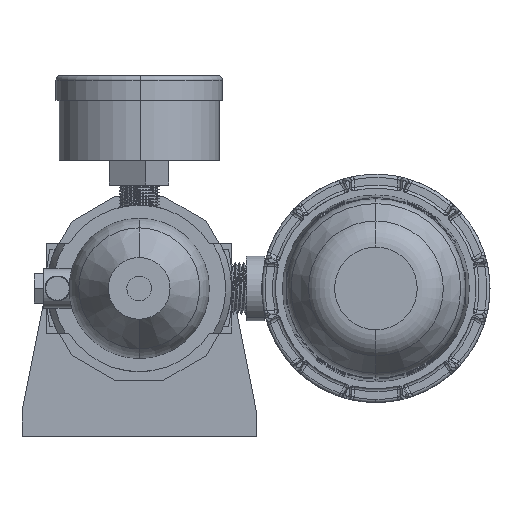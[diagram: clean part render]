
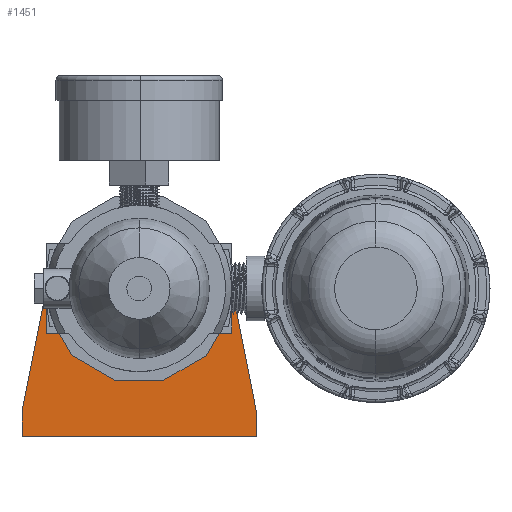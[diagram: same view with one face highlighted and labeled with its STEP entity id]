
A CAD part, front view. The second image highlights one B-rep face of the part: STEP entity #1451.
In plain terms, the highlighted planar face has unit normal (0, -1, 0).
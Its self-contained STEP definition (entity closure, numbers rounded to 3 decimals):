
#1088 = VECTOR ( 'NONE', #30053, 1000. ) ;
#1421 = CARTESIAN_POINT ( 'NONE',  ( 0., 0., 0. ) ) ;
#1451 = ADVANCED_FACE ( 'NONE', ( #35218, #46492 ), #53037, .F. ) ;
#2181 = AXIS2_PLACEMENT_3D ( 'NONE', #41358, #37414, #37584 ) ;
#2233 = CARTESIAN_POINT ( 'NONE',  ( 0., 0., -24. ) ) ;
#2901 = CARTESIAN_POINT ( 'NONE',  ( -38., 0., -48. ) ) ;
#3458 = DIRECTION ( 'NONE',  ( 0.194, 0., 0.981 ) ) ;
#3525 = DIRECTION ( 'NONE',  ( 0., 0., -1. ) ) ;
#3844 = ORIENTED_EDGE ( 'NONE', *, *, #44662, .F. ) ;
#5910 = DIRECTION ( 'NONE',  ( 0., 0., 1. ) ) ;
#7350 = ORIENTED_EDGE ( 'NONE', *, *, #24562, .T. ) ;
#7793 = VERTEX_POINT ( 'NONE', #2233 ) ;
#8515 = VERTEX_POINT ( 'NONE', #16818 ) ;
#8529 = CARTESIAN_POINT ( 'NONE',  ( -38., 0., -48. ) ) ;
#9286 = ORIENTED_EDGE ( 'NONE', *, *, #42701, .F. ) ;
#11626 = CARTESIAN_POINT ( 'NONE',  ( 28.937, 0., 5.734 ) ) ;
#11745 = VERTEX_POINT ( 'NONE', #14418 ) ;
#13649 = DIRECTION ( 'NONE',  ( -1., 0., 0. ) ) ;
#14418 = CARTESIAN_POINT ( 'NONE',  ( -38., 0., -40. ) ) ;
#15026 = DIRECTION ( 'NONE',  ( 0., 1., 0. ) ) ;
#15041 = LINE ( 'NONE', #2901, #36272 ) ;
#15141 = VERTEX_POINT ( 'NONE', #29105 ) ;
#15280 = EDGE_LOOP ( 'NONE', ( #7350, #23127 ) ) ;
#16818 = CARTESIAN_POINT ( 'NONE',  ( 38., 0., -48. ) ) ;
#18871 = ORIENTED_EDGE ( 'NONE', *, *, #43096, .F. ) ;
#19960 = EDGE_CURVE ( 'NONE', #8515, #29917, #29110, .T. ) ;
#20020 = CARTESIAN_POINT ( 'NONE',  ( -38., 0., -40. ) ) ;
#21343 = ORIENTED_EDGE ( 'NONE', *, *, #50241, .F. ) ;
#21901 = CARTESIAN_POINT ( 'NONE',  ( 38., 0., -40. ) ) ;
#23127 = ORIENTED_EDGE ( 'NONE', *, *, #36999, .T. ) ;
#23708 = LINE ( 'NONE', #21901, #1088 ) ;
#24107 = VECTOR ( 'NONE', #3458, 1000. ) ;
#24562 = EDGE_CURVE ( 'NONE', #48284, #7793, #51582, .T. ) ;
#26450 = CARTESIAN_POINT ( 'NONE',  ( -38., 0., -48. ) ) ;
#27447 = DIRECTION ( 'NONE',  ( 0., 1., 0. ) ) ;
#28886 = CARTESIAN_POINT ( 'NONE',  ( 38., 0., -40. ) ) ;
#29105 = CARTESIAN_POINT ( 'NONE',  ( -28.937, 0., 5.734 ) ) ;
#29110 = LINE ( 'NONE', #26450, #29809 ) ;
#29809 = VECTOR ( 'NONE', #13649, 1000. ) ;
#29917 = VERTEX_POINT ( 'NONE', #8529 ) ;
#30053 = DIRECTION ( 'NONE',  ( 0.194, 0., -0.981 ) ) ;
#31133 = DIRECTION ( 'NONE',  ( 0., 1., 0. ) ) ;
#31645 = EDGE_CURVE ( 'NONE', #44673, #8515, #36480, .T. ) ;
#32913 = CARTESIAN_POINT ( 'NONE',  ( 0., 0., 24. ) ) ;
#34654 = CIRCLE ( 'NONE', #40623, 24. ) ;
#35218 = FACE_BOUND ( 'NONE', #15280, .T. ) ;
#36272 = VECTOR ( 'NONE', #49315, 1000. ) ;
#36480 = LINE ( 'NONE', #54401, #53761 ) ;
#36518 = CARTESIAN_POINT ( 'NONE',  ( 0., 0., 0. ) ) ;
#36999 = EDGE_CURVE ( 'NONE', #7793, #48284, #34654, .T. ) ;
#37414 = DIRECTION ( 'NONE',  ( 0., 1., 0. ) ) ;
#37584 = DIRECTION ( 'NONE',  ( 0., 0., 1. ) ) ;
#38244 = VERTEX_POINT ( 'NONE', #11626 ) ;
#39723 = AXIS2_PLACEMENT_3D ( 'NONE', #43754, #31133, #52134 ) ;
#40623 = AXIS2_PLACEMENT_3D ( 'NONE', #36518, #15026, #53422 ) ;
#41358 = CARTESIAN_POINT ( 'NONE',  ( 0., 0., 0. ) ) ;
#42701 = EDGE_CURVE ( 'NONE', #38244, #44673, #23708, .T. ) ;
#43096 = EDGE_CURVE ( 'NONE', #29917, #11745, #15041, .T. ) ;
#43106 = ORIENTED_EDGE ( 'NONE', *, *, #31645, .F. ) ;
#43754 = CARTESIAN_POINT ( 'NONE',  ( 0., 0., 0. ) ) ;
#44662 = EDGE_CURVE ( 'NONE', #11745, #15141, #48024, .T. ) ;
#44673 = VERTEX_POINT ( 'NONE', #28886 ) ;
#46492 = FACE_OUTER_BOUND ( 'NONE', #50745, .T. ) ;
#48024 = LINE ( 'NONE', #20020, #24107 ) ;
#48284 = VERTEX_POINT ( 'NONE', #32913 ) ;
#48585 = ORIENTED_EDGE ( 'NONE', *, *, #19960, .F. ) ;
#49315 = DIRECTION ( 'NONE',  ( 0., 0., 1. ) ) ;
#50241 = EDGE_CURVE ( 'NONE', #15141, #38244, #54623, .T. ) ;
#50745 = EDGE_LOOP ( 'NONE', ( #3844, #18871, #48585, #43106, #9286, #21343 ) ) ;
#51582 = CIRCLE ( 'NONE', #39723, 24. ) ;
#52134 = DIRECTION ( 'NONE',  ( 0., 0., 1. ) ) ;
#53037 = PLANE ( 'NONE',  #2181 ) ;
#53422 = DIRECTION ( 'NONE',  ( 0., 0., 1. ) ) ;
#53761 = VECTOR ( 'NONE', #3525, 1000. ) ;
#54401 = CARTESIAN_POINT ( 'NONE',  ( 38., 0., -48. ) ) ;
#54473 = AXIS2_PLACEMENT_3D ( 'NONE', #1421, #27447, #5910 ) ;
#54623 = CIRCLE ( 'NONE', #54473, 29.5 ) ;
